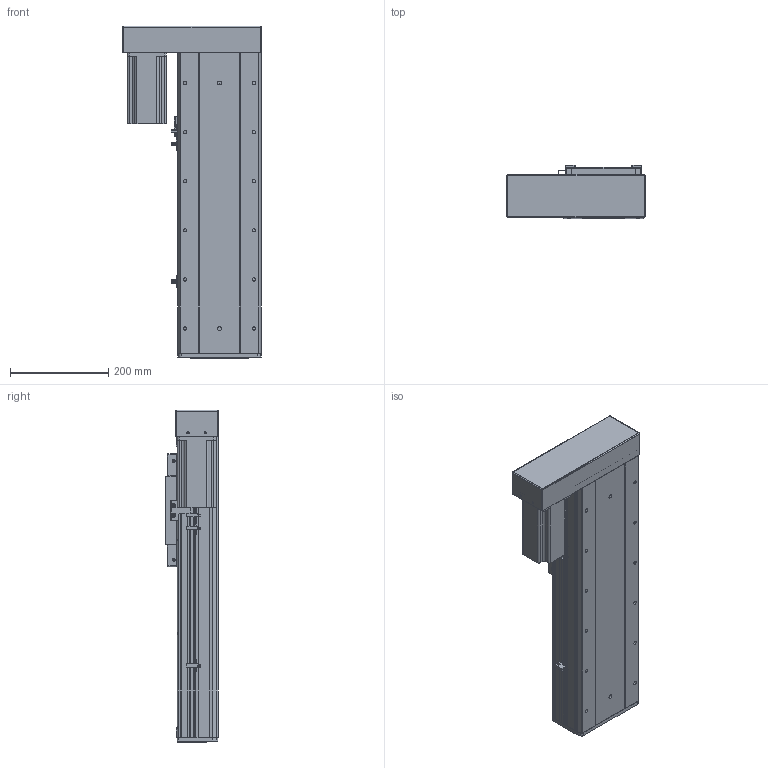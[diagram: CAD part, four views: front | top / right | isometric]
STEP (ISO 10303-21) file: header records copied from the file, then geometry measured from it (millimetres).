
FILE_DESCRIPTION (( 'STEP AP203' ), '1' );
FILE_NAME ('RY170F-L2020-300-LK.SLDASM_300.step', '2021-03-02T09:00:09', ( '盈信电脑' ), ( '东莞市道滘镇水果街19号' ), 'SwSTEP 2.0', 'SolidWorks 2012', '' );
FILE_SCHEMA (( 'CONFIG_CONTROL_DESIGN' ));
Length unit declared in the file: millimetre
Products named in the file (20): RY170F-L2020-300-LK.SLDASM_300; RY170F酘衵殏萇儂欶; 怢湛750W萇儂ㄗ80遺ㄘ; 侐源滅袉蝶; 滅袉蝶18-24; RY170F-蛌殏萇儂假蚾啣; RY170F-酘衵殏萇儂釱; RY170F-詩湍揤踡輸; 覜茼ん672; RY170F俋离覜茼え; RY170F-揤踡謫假蚾粣; RY170F-綴裔啣; RY100F-詩湍揤踡謫; 滅袉蝶18-10; RY170F-300眻蟀倰第奻裔啣-LK; RY170F-佪裝臏賑輸20蹟譫; RY170F-丝杆铝滑块连接板; RY170F-300眻蟀倰第菁釱-LK; RY170F-300眻蟀祥凄詩湍-LK; RY170F-滅鳥奻裔
Assembly tree (24 placements, depth 2):
  RY170F-L2020-300-LK.SLDASM_300
    RY170F-滅鳥奻裔
    RY170F-300眻蟀祥凄詩湍-LK
    RY170F-300眻蟀倰第菁釱-LK
    RY170F-佪裝臏賑輸20蹟譫
    RY170F-丝杆铝滑块连接板
    RY170F-300眻蟀倰第奻裔啣-LK  x2
    滅袉蝶18-10
    RY100F-詩湍揤踡謫
    RY170F-綴裔啣
    覜茼ん672  x3
    RY170F俋离覜茼え
    RY170F-揤踡謫假蚾粣
    RY170F-詩湍揤踡輸  x2
    滅袉蝶18-24
    侐源滅袉蝶  x2
    RY170F-酘衵殏萇儂釱
    RY170F-蛌殏萇儂假蚾啣
    怢湛750W萇儂ㄗ80遺ㄘ
    RY170F酘衵殏萇儂欶
Bounding box: 283 x 107 x 676 mm (x, y, z)
Volume: 5033860.8 mm3; surface area: 1534494 mm2
Topology: 24 solids, 24 shells, 1793 faces, 4978 edges, 3170 vertices
Faces by surface type: cylinder 841, plane 760, cone 184, bspline 8
Entity records: 51415 total; most frequent: CARTESIAN_POINT 10430, DIRECTION 8283, ORIENTED_EDGE 7936, EDGE_CURVE 3968, AXIS2_PLACEMENT_3D 2973, VERTEX_POINT 2590, LINE 2337, VECTOR 2337
